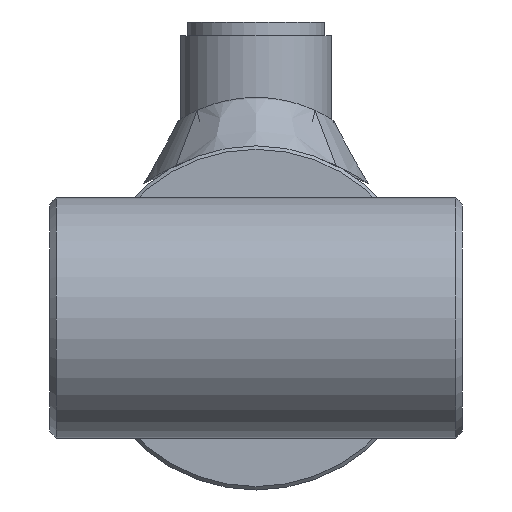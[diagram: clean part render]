
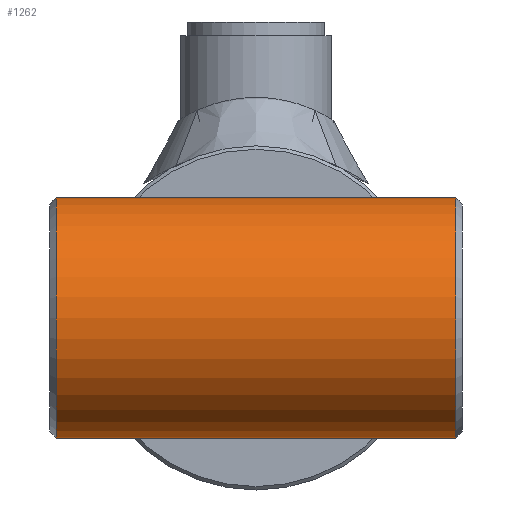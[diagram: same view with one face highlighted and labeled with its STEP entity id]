
A CAD part, left-side view. The second image highlights one B-rep face of the part: STEP entity #1262.
In plain terms, the highlighted cylindrical face has radius 17.5 mm (diameter 35 mm), a full revolution.
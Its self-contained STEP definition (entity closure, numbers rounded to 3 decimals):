
#1262 = ADVANCED_FACE( '', ( #2390, #2391 ), #2392, .T. );
#2390 = FACE_OUTER_BOUND( '', #8954, .T. );
#2391 = FACE_OUTER_BOUND( '', #8955, .T. );
#2392 = CYLINDRICAL_SURFACE( '', #8956, 17.5 );
#8954 = EDGE_LOOP( '', ( #11265 ) );
#8955 = EDGE_LOOP( '', ( #11266 ) );
#8956 = AXIS2_PLACEMENT_3D( '', #11267, #11268, #11269 );
#11265 = ORIENTED_EDGE( '', *, *, #11665, .T. );
#11266 = ORIENTED_EDGE( '', *, *, #11986, .T. );
#11267 = CARTESIAN_POINT( '', ( 0., -30., 0. ) );
#11268 = DIRECTION( '', ( 0., -1., 0. ) );
#11269 = DIRECTION( '', ( 0., 0., 1. ) );
#11665 = EDGE_CURVE( '', #12578, #12578, #12579, .F. );
#11986 = EDGE_CURVE( '', #13022, #13022, #13023, .T. );
#12578 = VERTEX_POINT( '', #14670 );
#12579 = CIRCLE( '', #14671, 17.5 );
#13022 = VERTEX_POINT( '', #16314 );
#13023 = CIRCLE( '', #16315, 17.5 );
#14670 = CARTESIAN_POINT( '', ( 0., 29., 17.5 ) );
#14671 = AXIS2_PLACEMENT_3D( '', #16875, #16876, #16877 );
#16314 = CARTESIAN_POINT( '', ( 0., -29., 17.5 ) );
#16315 = AXIS2_PLACEMENT_3D( '', #17158, #17159, #17160 );
#16875 = CARTESIAN_POINT( '', ( 0., 29., 0. ) );
#16876 = DIRECTION( '', ( 0., 1., 0. ) );
#16877 = DIRECTION( '', ( 0., 0., 1. ) );
#17158 = CARTESIAN_POINT( '', ( 0., -29., 0. ) );
#17159 = DIRECTION( '', ( 0., 1., 0. ) );
#17160 = DIRECTION( '', ( 0., 0., 1. ) );
